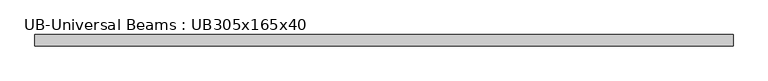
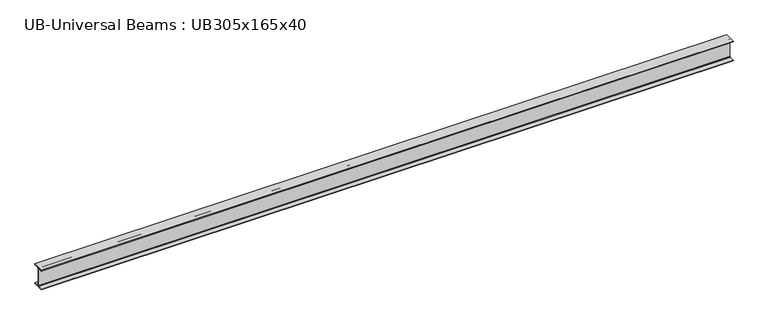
"""IFC4 building model written with IfcOpenShell, lengths in millimetres: beam geometry, UB-Universal Beams : UB305x165x40."""

from ifc_helpers import new_model, si_unit, point, frame, frame_2d, origin, place, context, project, spatial, polyline, circle_curve, trimmed, segment, composite_curve, outline, extrude, source, transform, mapped, element, save


def ub_universal_beams_ub305x165x40_556f6fdc(model_context):
    return source(origin(), model_context, "Body", "SweptSolid", [
        extrude(outline(composite_curve([segment(polyline([(82.5, -141.5), (82.5, -151.7), (-82.5, -151.7), (-82.5, -141.5), (-11.9, -141.5)]), True, "CONTINUOUS"), segment(trimmed(circle_curve(frame_2d((-11.9, -132.6)), 8.9), [point((-11.9, -141.5))], [point((-3.0, -132.6))], True, "CARTESIAN"), True, "CONTINUOUS"), segment(polyline([(-3.0, -132.6), (-3.0, 132.6)]), True, "CONTINUOUS"), segment(trimmed(circle_curve(frame_2d((-11.9, 132.6)), 8.9), [point((-3.0, 132.6))], [point((-11.9, 141.5))], True, "CARTESIAN"), True, "CONTINUOUS"), segment(polyline([(-11.9, 141.5), (-82.5, 141.5), (-82.5, 151.7), (82.5, 151.7), (82.5, 141.5), (11.9, 141.5)]), True, "CONTINUOUS"), segment(trimmed(circle_curve(frame_2d((11.9, 132.6)), 8.9), [point((11.9, 141.5))], [point((3.0, 132.6))], True, "CARTESIAN"), True, "CONTINUOUS"), segment(polyline([(3.0, 132.6), (3.0, -132.6)]), True, "CONTINUOUS"), segment(trimmed(circle_curve(frame_2d((11.9, -132.6)), 8.9), [point((3.0, -132.6))], [point((11.9, -141.5))], True, "CARTESIAN"), True, "CONTINUOUS"), segment(polyline([(11.9, -141.5), (82.5, -141.5)]), True, "CONTINUOUS")], self_intersect=False)), frame((-2663.55, 0.0, 0.0), z_axis=(1.0, 0.0, 0.0), x_axis=(0.0, 1.0, 0.0)), (0.0, 0.0, 1.0), 10216.4),
    ])


if __name__ == "__main__":
    model = new_model("IFC4")
    model_context = context("Model", 3, world=origin())
    ifc_project = project(units=[si_unit("LENGTHUNIT", "METRE", prefix="MILLI")], contexts=[model_context])
    site = spatial("IfcSite", under=ifc_project)
    building = spatial("IfcBuilding", under=site)
    placement = place(None, origin())
    ub_universal_beams_ub305x165x40_shape = ub_universal_beams_ub305x165x40_556f6fdc(model_context)
    element("IfcBeam", 1, ObjectType="UB-Universal Beams : UB305x165x40", at=placement, inside=building, context=model_context, shape_type="MappedRepresentation", body=[
        mapped(ub_universal_beams_ub305x165x40_shape, transform((0.0, 0.0, 0.0), x_axis=(1.0, 0.0, 0.0), y_axis=(0.0, 1.0, 0.0), z_axis=(0.0, 0.0, 1.0))),
    ])
    save(model, "model.ifc")
